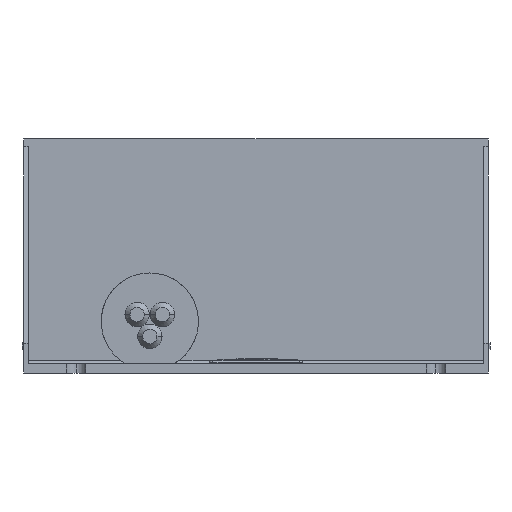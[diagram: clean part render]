
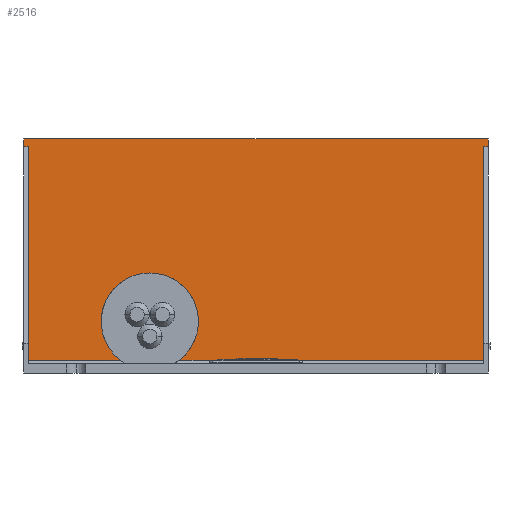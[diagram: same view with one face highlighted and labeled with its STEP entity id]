
A CAD part, front view. The second image highlights one B-rep face of the part: STEP entity #2516.
In plain terms, the highlighted planar face has unit normal (0, -1, 0).
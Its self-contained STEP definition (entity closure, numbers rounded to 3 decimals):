
#45 = DIRECTION ( 'NONE',  ( 0., 0., -1. ) ) ;
#54 = VECTOR ( 'NONE', #996, 1000. ) ;
#263 = ORIENTED_EDGE ( 'NONE', *, *, #3137, .T. ) ;
#280 = ORIENTED_EDGE ( 'NONE', *, *, #5509, .T. ) ;
#310 = CARTESIAN_POINT ( 'NONE',  ( 63.3, -305., 62.801 ) ) ;
#428 = EDGE_CURVE ( 'NONE', #2212, #1171, #6602, .T. ) ;
#463 = LINE ( 'NONE', #5820, #702 ) ;
#702 = VECTOR ( 'NONE', #2162, 1000. ) ;
#996 = DIRECTION ( 'NONE',  ( 1., 0., 0. ) ) ;
#1008 = PLANE ( 'NONE',  #3167 ) ;
#1054 = VECTOR ( 'NONE', #1271, 1000. ) ;
#1117 = DIRECTION ( 'NONE',  ( 0., 1., 0. ) ) ;
#1171 = VERTEX_POINT ( 'NONE', #1518 ) ;
#1257 = DIRECTION ( 'NONE',  ( -1., 0., 0. ) ) ;
#1271 = DIRECTION ( 'NONE',  ( -1., 0., 0. ) ) ;
#1318 = ORIENTED_EDGE ( 'NONE', *, *, #6239, .T. ) ;
#1392 = ORIENTED_EDGE ( 'NONE', *, *, #2816, .F. ) ;
#1476 = VERTEX_POINT ( 'NONE', #6185 ) ;
#1518 = CARTESIAN_POINT ( 'NONE',  ( -21.4, -305., 3.501 ) ) ;
#1535 = FACE_OUTER_BOUND ( 'NONE', #5947, .T. ) ;
#1720 = CARTESIAN_POINT ( 'NONE',  ( -63.3, -305., 62.801 ) ) ;
#1784 = CARTESIAN_POINT ( 'NONE',  ( 62.3, -305., 3.501 ) ) ;
#1785 = ORIENTED_EDGE ( 'NONE', *, *, #6130, .T. ) ;
#1876 = CARTESIAN_POINT ( 'NONE',  ( -29.5, -305., 14.301 ) ) ;
#1906 = DIRECTION ( 'NONE',  ( 0., 0., 1. ) ) ;
#2010 = CARTESIAN_POINT ( 'NONE',  ( -64.5, -305., 62.801 ) ) ;
#2080 = CARTESIAN_POINT ( 'NONE',  ( 64.5, -305., 62.801 ) ) ;
#2162 = DIRECTION ( 'NONE',  ( 0., 0., 1. ) ) ;
#2204 = CIRCLE ( 'NONE', #3547, 13.5 ) ;
#2212 = VERTEX_POINT ( 'NONE', #3513 ) ;
#2319 = LINE ( 'NONE', #6641, #3860 ) ;
#2450 = DIRECTION ( 'NONE',  ( 0., 0., -1. ) ) ;
#2475 = EDGE_CURVE ( 'NONE', #3059, #5481, #463, .T. ) ;
#2516 = ADVANCED_FACE ( 'NONE', ( #1535 ), #1008, .F. ) ;
#2813 = EDGE_CURVE ( 'NONE', #3549, #3996, #5500, .T. ) ;
#2816 = EDGE_CURVE ( 'NONE', #6501, #2212, #3777, .T. ) ;
#2892 = ORIENTED_EDGE ( 'NONE', *, *, #2813, .F. ) ;
#3037 = CARTESIAN_POINT ( 'NONE',  ( -29.5, -305., 27.801 ) ) ;
#3059 = VERTEX_POINT ( 'NONE', #2080 ) ;
#3100 = ORIENTED_EDGE ( 'NONE', *, *, #5696, .F. ) ;
#3137 = EDGE_CURVE ( 'NONE', #5481, #1476, #5488, .T. ) ;
#3150 = VERTEX_POINT ( 'NONE', #3368 ) ;
#3167 = AXIS2_PLACEMENT_3D ( 'NONE', #4801, #1117, #3736 ) ;
#3206 = DIRECTION ( 'NONE',  ( 0., 0., 1. ) ) ;
#3304 = CARTESIAN_POINT ( 'NONE',  ( 64.5, -305., 65.001 ) ) ;
#3368 = CARTESIAN_POINT ( 'NONE',  ( -64.5, -305., 62.801 ) ) ;
#3425 = VECTOR ( 'NONE', #4357, 1000. ) ;
#3437 = VERTEX_POINT ( 'NONE', #1720 ) ;
#3506 = CARTESIAN_POINT ( 'NONE',  ( -37.6, -305., 3.501 ) ) ;
#3513 = CARTESIAN_POINT ( 'NONE',  ( 63.3, -305., 3.501 ) ) ;
#3522 = DIRECTION ( 'NONE',  ( 0., 1., 0. ) ) ;
#3547 = AXIS2_PLACEMENT_3D ( 'NONE', #1876, #3522, #1906 ) ;
#3549 = VERTEX_POINT ( 'NONE', #3506 ) ;
#3562 = LINE ( 'NONE', #6655, #5915 ) ;
#3725 = CARTESIAN_POINT ( 'NONE',  ( -29.5, -305., 14.301 ) ) ;
#3736 = DIRECTION ( 'NONE',  ( 0., 0., 1. ) ) ;
#3777 = LINE ( 'NONE', #6458, #5428 ) ;
#3860 = VECTOR ( 'NONE', #4457, 1000. ) ;
#3977 = VERTEX_POINT ( 'NONE', #3037 ) ;
#3996 = VERTEX_POINT ( 'NONE', #6210 ) ;
#4138 = ORIENTED_EDGE ( 'NONE', *, *, #5645, .T. ) ;
#4167 = VECTOR ( 'NONE', #1257, 1000. ) ;
#4357 = DIRECTION ( 'NONE',  ( 0., 0., 1. ) ) ;
#4445 = CARTESIAN_POINT ( 'NONE',  ( -40.5, -305., 3.501 ) ) ;
#4457 = DIRECTION ( 'NONE',  ( -1., 0., 0. ) ) ;
#4581 = ORIENTED_EDGE ( 'NONE', *, *, #4653, .F. ) ;
#4653 = EDGE_CURVE ( 'NONE', #3059, #6501, #2319, .T. ) ;
#4801 = CARTESIAN_POINT ( 'NONE',  ( -29.5, -305., 14.301 ) ) ;
#4972 = VECTOR ( 'NONE', #6004, 1000. ) ;
#5076 = ORIENTED_EDGE ( 'NONE', *, *, #428, .F. ) ;
#5122 = CIRCLE ( 'NONE', #5454, 13.5 ) ;
#5428 = VECTOR ( 'NONE', #45, 1000. ) ;
#5454 = AXIS2_PLACEMENT_3D ( 'NONE', #3725, #5880, #3206 ) ;
#5481 = VERTEX_POINT ( 'NONE', #6623 ) ;
#5488 = LINE ( 'NONE', #3304, #1054 ) ;
#5500 = LINE ( 'NONE', #4445, #4972 ) ;
#5509 = EDGE_CURVE ( 'NONE', #3150, #3437, #6892, .T. ) ;
#5623 = ORIENTED_EDGE ( 'NONE', *, *, #2475, .T. ) ;
#5645 = EDGE_CURVE ( 'NONE', #3977, #1171, #5122, .T. ) ;
#5696 = EDGE_CURVE ( 'NONE', #3996, #3437, #6548, .T. ) ;
#5820 = CARTESIAN_POINT ( 'NONE',  ( 64.5, -305., 65.001 ) ) ;
#5880 = DIRECTION ( 'NONE',  ( 0., 1., 0. ) ) ;
#5915 = VECTOR ( 'NONE', #2450, 1000. ) ;
#5947 = EDGE_LOOP ( 'NONE', ( #5076, #1392, #4581, #5623, #263, #1318, #280, #3100, #2892, #1785, #4138 ) ) ;
#5954 = CARTESIAN_POINT ( 'NONE',  ( -63.3, -305., -26.799 ) ) ;
#6004 = DIRECTION ( 'NONE',  ( -1., 0., 0. ) ) ;
#6130 = EDGE_CURVE ( 'NONE', #3549, #3977, #2204, .T. ) ;
#6185 = CARTESIAN_POINT ( 'NONE',  ( -64.5, -305., 65.001 ) ) ;
#6210 = CARTESIAN_POINT ( 'NONE',  ( -63.3, -305., 3.501 ) ) ;
#6239 = EDGE_CURVE ( 'NONE', #1476, #3150, #3562, .T. ) ;
#6458 = CARTESIAN_POINT ( 'NONE',  ( 63.3, -305., -12.199 ) ) ;
#6501 = VERTEX_POINT ( 'NONE', #310 ) ;
#6548 = LINE ( 'NONE', #5954, #3425 ) ;
#6602 = LINE ( 'NONE', #1784, #4167 ) ;
#6623 = CARTESIAN_POINT ( 'NONE',  ( 64.5, -305., 65.001 ) ) ;
#6641 = CARTESIAN_POINT ( 'NONE',  ( 64.5, -305., 62.801 ) ) ;
#6655 = CARTESIAN_POINT ( 'NONE',  ( -64.5, -305., 65.001 ) ) ;
#6892 = LINE ( 'NONE', #2010, #54 ) ;
